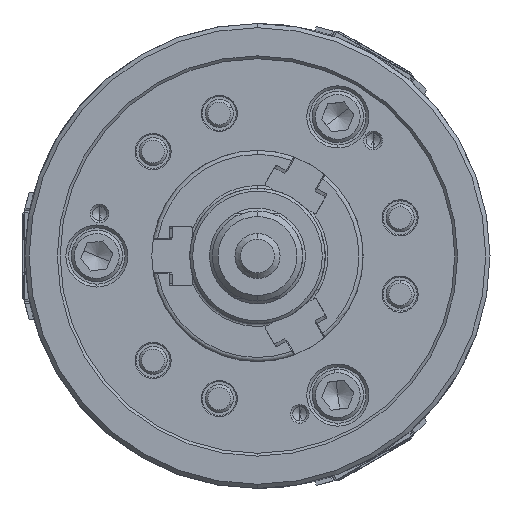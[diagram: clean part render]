
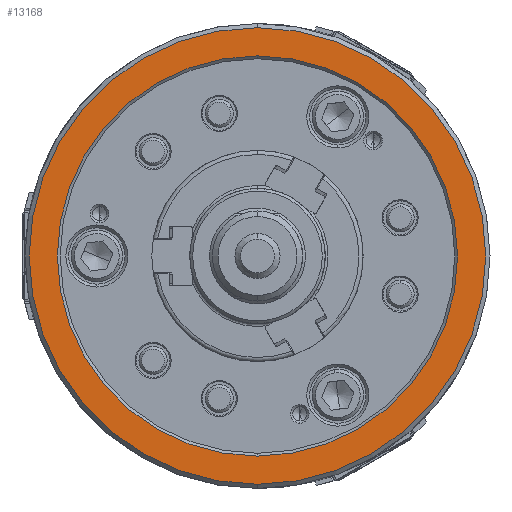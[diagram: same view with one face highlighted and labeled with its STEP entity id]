
A CAD part, left-side view. The second image highlights one B-rep face of the part: STEP entity #13168.
In plain terms, the highlighted planar face has unit normal (-1, 0, 0).
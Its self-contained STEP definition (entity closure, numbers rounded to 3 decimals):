
#2219 = ORIENTED_EDGE ( 'NONE', *, *, #90621, .F. ) ;
#2956 = ORIENTED_EDGE ( 'NONE', *, *, #85138, .T. ) ;
#9597 = DIRECTION ( 'NONE',  ( 0., 0., -1. ) ) ;
#10913 = DIRECTION ( 'NONE',  ( 1., 0., 0. ) ) ;
#13168 = ADVANCED_FACE ( 'NONE', ( #47225, #82599 ), #61893, .F. ) ;
#13285 = VERTEX_POINT ( 'NONE', #34310 ) ;
#15766 = DIRECTION ( 'NONE',  ( 1., 0., 0. ) ) ;
#17896 = CARTESIAN_POINT ( 'NONE',  ( -74., 0., -71. ) ) ;
#19030 = CIRCLE ( 'NONE', #70387, 71. ) ;
#21971 = CARTESIAN_POINT ( 'NONE',  ( -74., 0., -81. ) ) ;
#22847 = EDGE_LOOP ( 'NONE', ( #2219, #44716 ) ) ;
#22948 = AXIS2_PLACEMENT_3D ( 'NONE', #60099, #10913, #32522 ) ;
#29836 = DIRECTION ( 'NONE',  ( 1., 0., 0. ) ) ;
#30027 = VERTEX_POINT ( 'NONE', #17896 ) ;
#32522 = DIRECTION ( 'NONE',  ( 0., 0., -1. ) ) ;
#34310 = CARTESIAN_POINT ( 'NONE',  ( -74., 0., 81. ) ) ;
#37195 = CARTESIAN_POINT ( 'NONE',  ( -74., 0., 0. ) ) ;
#37890 = CIRCLE ( 'NONE', #42346, 81. ) ;
#39568 = CIRCLE ( 'NONE', #90949, 71. ) ;
#42346 = AXIS2_PLACEMENT_3D ( 'NONE', #50738, #15766, #43831 ) ;
#42439 = VERTEX_POINT ( 'NONE', #21971 ) ;
#43194 = CARTESIAN_POINT ( 'NONE',  ( -74., 0., 0. ) ) ;
#43831 = DIRECTION ( 'NONE',  ( 0., 0., -1. ) ) ;
#44716 = ORIENTED_EDGE ( 'NONE', *, *, #74330, .F. ) ;
#47225 = FACE_OUTER_BOUND ( 'NONE', #22847, .T. ) ;
#50738 = CARTESIAN_POINT ( 'NONE',  ( -74., 0., 0. ) ) ;
#51002 = DIRECTION ( 'NONE',  ( 1., 0., 0. ) ) ;
#54736 = CIRCLE ( 'NONE', #84038, 81. ) ;
#56525 = CARTESIAN_POINT ( 'NONE',  ( -74., 0., 71. ) ) ;
#57432 = DIRECTION ( 'NONE',  ( 1., 0., 0. ) ) ;
#57882 = CARTESIAN_POINT ( 'NONE',  ( -74., 0., 0. ) ) ;
#58805 = DIRECTION ( 'NONE',  ( 0., 0., -1. ) ) ;
#60099 = CARTESIAN_POINT ( 'NONE',  ( -74., -81., 0. ) ) ;
#60632 = EDGE_LOOP ( 'NONE', ( #71404, #2956 ) ) ;
#61893 = PLANE ( 'NONE',  #22948 ) ;
#65696 = VERTEX_POINT ( 'NONE', #56525 ) ;
#70387 = AXIS2_PLACEMENT_3D ( 'NONE', #43194, #57432, #58805 ) ;
#71404 = ORIENTED_EDGE ( 'NONE', *, *, #85168, .T. ) ;
#74330 = EDGE_CURVE ( 'NONE', #13285, #42439, #37890, .T. ) ;
#82599 = FACE_BOUND ( 'NONE', #60632, .T. ) ;
#84038 = AXIS2_PLACEMENT_3D ( 'NONE', #37195, #51002, #9597 ) ;
#85138 = EDGE_CURVE ( 'NONE', #30027, #65696, #39568, .T. ) ;
#85168 = EDGE_CURVE ( 'NONE', #65696, #30027, #19030, .T. ) ;
#85925 = DIRECTION ( 'NONE',  ( 0., 0., -1. ) ) ;
#90621 = EDGE_CURVE ( 'NONE', #42439, #13285, #54736, .T. ) ;
#90949 = AXIS2_PLACEMENT_3D ( 'NONE', #57882, #29836, #85925 ) ;
